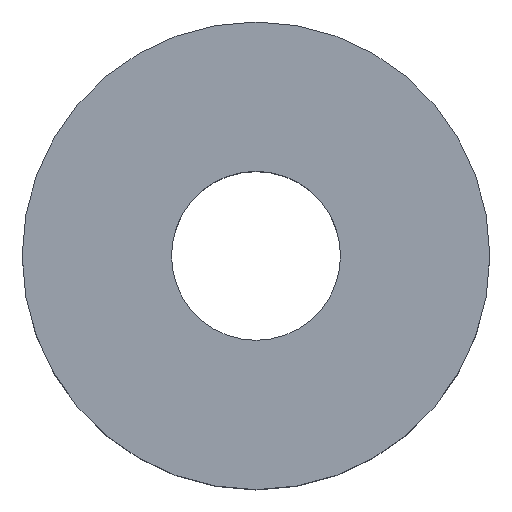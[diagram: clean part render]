
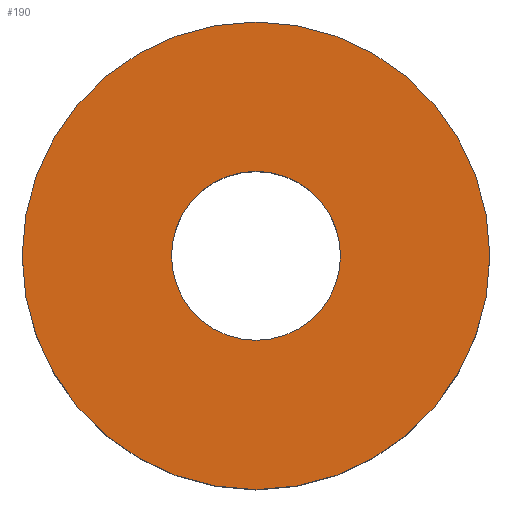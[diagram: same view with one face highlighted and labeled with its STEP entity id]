
A CAD part, top view. The second image highlights one B-rep face of the part: STEP entity #190.
In plain terms, the highlighted planar face has unit normal (0, 0, 1).
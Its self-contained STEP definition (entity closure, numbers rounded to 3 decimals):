
#24 = VERTEX_POINT('',#25);
#25 = CARTESIAN_POINT('',(41.5,0.,35.));
#32 = CYLINDRICAL_SURFACE('',#33,41.5);
#33 = AXIS2_PLACEMENT_3D('',#34,#35,#36);
#34 = CARTESIAN_POINT('',(0.,0.,0.));
#35 = DIRECTION('',(-0.,-0.,-1.));
#36 = DIRECTION('',(1.,0.,0.));
#51 = EDGE_CURVE('',#24,#24,#52,.T.);
#52 = SURFACE_CURVE('',#53,(#58,#65),.PCURVE_S1.);
#53 = CIRCLE('',#54,41.5);
#54 = AXIS2_PLACEMENT_3D('',#55,#56,#57);
#55 = CARTESIAN_POINT('',(0.,0.,35.));
#56 = DIRECTION('',(0.,0.,1.));
#57 = DIRECTION('',(1.,0.,0.));
#58 = PCURVE('',#32,#59);
#59 = DEFINITIONAL_REPRESENTATION('',(#60),#64);
#60 = LINE('',#61,#62);
#61 = CARTESIAN_POINT('',(-0.,-35.));
#62 = VECTOR('',#63,1.);
#63 = DIRECTION('',(-1.,0.));
#64 = ( GEOMETRIC_REPRESENTATION_CONTEXT(2) 
PARAMETRIC_REPRESENTATION_CONTEXT() REPRESENTATION_CONTEXT('2D SPACE',''
  ) );
#65 = PCURVE('',#66,#71);
#66 = PLANE('',#67);
#67 = AXIS2_PLACEMENT_3D('',#68,#69,#70);
#68 = CARTESIAN_POINT('',(0.,0.,35.));
#69 = DIRECTION('',(0.,0.,1.));
#70 = DIRECTION('',(1.,0.,0.));
#71 = DEFINITIONAL_REPRESENTATION('',(#72),#76);
#72 = CIRCLE('',#73,41.5);
#73 = AXIS2_PLACEMENT_2D('',#74,#75);
#74 = CARTESIAN_POINT('',(0.,0.));
#75 = DIRECTION('',(1.,0.));
#76 = ( GEOMETRIC_REPRESENTATION_CONTEXT(2) 
PARAMETRIC_REPRESENTATION_CONTEXT() REPRESENTATION_CONTEXT('2D SPACE',''
  ) );
#112 = VERTEX_POINT('',#113);
#113 = CARTESIAN_POINT('',(15.,0.,35.));
#120 = CYLINDRICAL_SURFACE('',#121,15.);
#121 = AXIS2_PLACEMENT_3D('',#122,#123,#124);
#122 = CARTESIAN_POINT('',(0.,0.,0.));
#123 = DIRECTION('',(-0.,-0.,-1.));
#124 = DIRECTION('',(1.,0.,0.));
#139 = EDGE_CURVE('',#112,#112,#140,.T.);
#140 = SURFACE_CURVE('',#141,(#146,#153),.PCURVE_S1.);
#141 = CIRCLE('',#142,15.);
#142 = AXIS2_PLACEMENT_3D('',#143,#144,#145);
#143 = CARTESIAN_POINT('',(0.,0.,35.));
#144 = DIRECTION('',(0.,0.,1.));
#145 = DIRECTION('',(1.,0.,0.));
#146 = PCURVE('',#120,#147);
#147 = DEFINITIONAL_REPRESENTATION('',(#148),#152);
#148 = LINE('',#149,#150);
#149 = CARTESIAN_POINT('',(-0.,-35.));
#150 = VECTOR('',#151,1.);
#151 = DIRECTION('',(-1.,0.));
#152 = ( GEOMETRIC_REPRESENTATION_CONTEXT(2) 
PARAMETRIC_REPRESENTATION_CONTEXT() REPRESENTATION_CONTEXT('2D SPACE',''
  ) );
#153 = PCURVE('',#66,#154);
#154 = DEFINITIONAL_REPRESENTATION('',(#155),#159);
#155 = CIRCLE('',#156,15.);
#156 = AXIS2_PLACEMENT_2D('',#157,#158);
#157 = CARTESIAN_POINT('',(0.,0.));
#158 = DIRECTION('',(1.,0.));
#159 = ( GEOMETRIC_REPRESENTATION_CONTEXT(2) 
PARAMETRIC_REPRESENTATION_CONTEXT() REPRESENTATION_CONTEXT('2D SPACE',''
  ) );
#190 = ADVANCED_FACE('',(#191,#194),#66,.T.);
#191 = FACE_BOUND('',#192,.T.);
#192 = EDGE_LOOP('',(#193));
#193 = ORIENTED_EDGE('',*,*,#51,.T.);
#194 = FACE_BOUND('',#195,.F.);
#195 = EDGE_LOOP('',(#196));
#196 = ORIENTED_EDGE('',*,*,#139,.T.);
